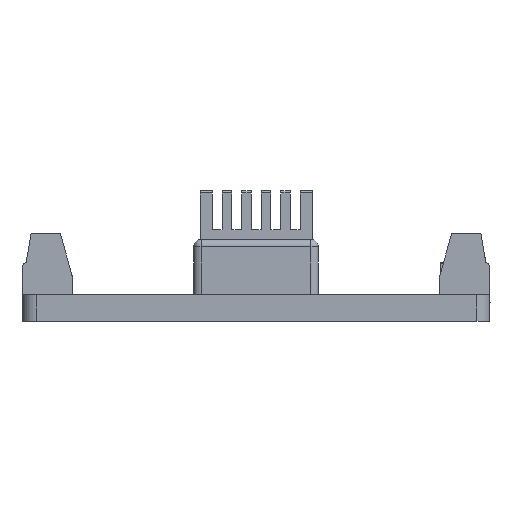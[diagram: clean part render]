
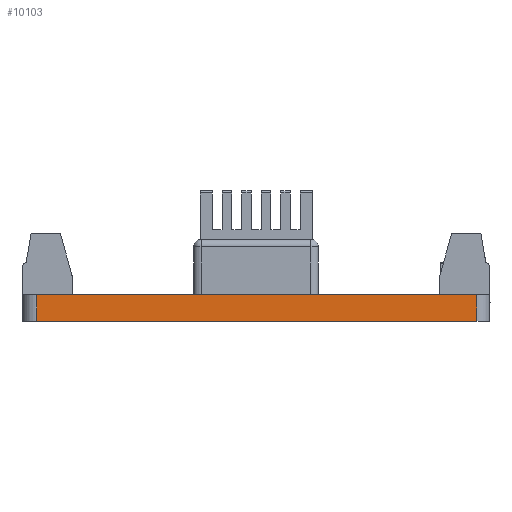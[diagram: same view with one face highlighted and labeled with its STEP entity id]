
A CAD part, front view. The second image highlights one B-rep face of the part: STEP entity #10103.
In plain terms, the highlighted planar face has unit normal (0, -1, 0) as drawn and (1, 0, 0) by its records, which use the part's own axes.
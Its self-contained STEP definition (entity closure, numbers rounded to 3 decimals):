
#547=PLANE($,#10703);
#970=FACE_OUTER_BOUND($,#1526,.T.);
#1526=EDGE_LOOP($,(#7209,#7210,#7211,#7212));
#2177=LINE($,#14535,#3360);
#2271=LINE($,#14745,#3454);
#2272=LINE($,#14749,#3455);
#2273=LINE($,#14750,#3456);
#3360=VECTOR($,#11611,90.088);
#3454=VECTOR($,#11785,5.5);
#3455=VECTOR($,#11790,5.5);
#3456=VECTOR($,#11791,90.088);
#4543=VERTEX_POINT($,#14532);
#4544=VERTEX_POINT($,#14534);
#4620=VERTEX_POINT($,#14744);
#4621=VERTEX_POINT($,#14748);
#5543=EDGE_CURVE($,#4544,#4543,#2177,.T.);
#5647=EDGE_CURVE($,#4620,#4544,#2271,.T.);
#5649=EDGE_CURVE($,#4621,#4543,#2272,.T.);
#5650=EDGE_CURVE($,#4621,#4620,#2273,.T.);
#7209=ORIENTED_EDGE($,*,*,#5543,.T.);
#7210=ORIENTED_EDGE($,*,*,#5649,.F.);
#7211=ORIENTED_EDGE($,*,*,#5650,.T.);
#7212=ORIENTED_EDGE($,*,*,#5647,.T.);
#10103=ADVANCED_FACE($,(#970),#547,.T.);
#10703=AXIS2_PLACEMENT_3D($,#14747,#11788,#11789);
#11611=DIRECTION($,(0.,-1.,0.));
#11785=DIRECTION($,(0.,0.,1.));
#11788=DIRECTION('center_axis',(1.,0.,0.));
#11789=DIRECTION('ref_axis',(0.,0.,-1.));
#11790=DIRECTION($,(0.,0.,1.));
#11791=DIRECTION($,(0.,1.,0.));
#14532=CARTESIAN_POINT('',(56.166,2.476,5.5));
#14534=CARTESIAN_POINT('',(56.166,92.564,5.5));
#14535=CARTESIAN_POINT($,(56.166,2.476,5.5));
#14744=CARTESIAN_POINT('',(56.166,92.564,0.));
#14745=CARTESIAN_POINT($,(56.166,92.564,0.));
#14747=CARTESIAN_POINT('Origin',(56.166,92.564,0.));
#14748=CARTESIAN_POINT('',(56.166,2.476,0.));
#14749=CARTESIAN_POINT($,(56.166,2.476,0.));
#14750=CARTESIAN_POINT($,(56.166,2.476,0.));
